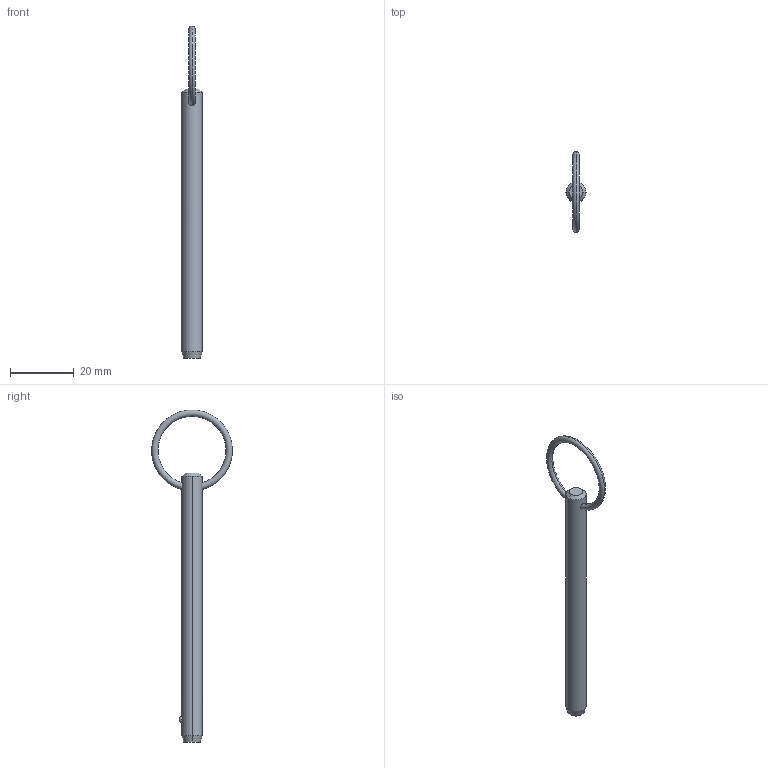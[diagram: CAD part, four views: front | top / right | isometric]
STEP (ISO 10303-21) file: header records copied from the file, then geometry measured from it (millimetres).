
FILE_DESCRIPTION (( 'STEP AP203' ), '1' );
FILE_NAME ('P1250.025-280.step', '2019-07-29T19:44:00', ( '' ), ( '' ), 'SwSTEP 2.0', 'SolidWorks 2017', '' );
FILE_SCHEMA (( 'CONFIG_CONTROL_DESIGN' ));
Length unit declared in the file: millimetre
Products named in the file (1): P1250.025-280
Bounding box: 6.35 x 25.38 x 104.42 mm (x, y, z)
Volume: 2872.9 mm3; surface area: 2145.1 mm2
Topology: 1 solids, 1 shells, 12 faces, 28 edges, 17 vertices
Faces by surface type: cone 4, torus 2, sphere 2, cylinder 2, plane 2
Entity records: 481 total; most frequent: CARTESIAN_POINT 148, DIRECTION 56, ORIENTED_EDGE 48, AXIS2_PLACEMENT_3D 25, EDGE_CURVE 24, EDGE_LOOP 15, VERTEX_POINT 15, FACE_OUTER_BOUND 12
